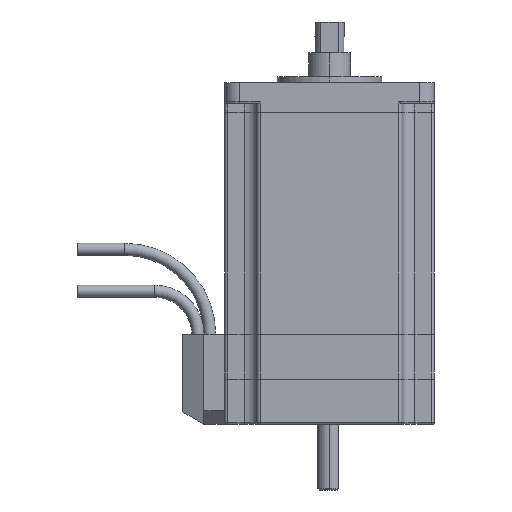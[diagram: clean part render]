
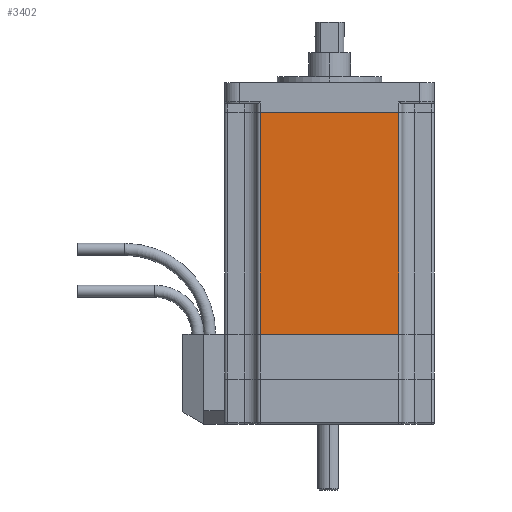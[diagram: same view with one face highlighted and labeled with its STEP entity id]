
A CAD part, left-side view. The second image highlights one B-rep face of the part: STEP entity #3402.
In plain terms, the highlighted planar face has unit normal (-1, 0, 0).
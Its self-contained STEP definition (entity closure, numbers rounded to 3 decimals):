
#276 = VECTOR ( 'NONE', #378, 1000. ) ;
#378 = DIRECTION ( 'NONE',  ( 0., 1., 0. ) ) ;
#503 = AXIS2_PLACEMENT_3D ( 'NONE', #5862, #5057, #5256 ) ;
#506 = VECTOR ( 'NONE', #1842, 1000. ) ;
#557 = ORIENTED_EDGE ( 'NONE', *, *, #1018, .T. ) ;
#628 = ORIENTED_EDGE ( 'NONE', *, *, #1414, .T. ) ;
#731 = EDGE_CURVE ( 'NONE', #6656, #3488, #6765, .T. ) ;
#757 = LINE ( 'NONE', #940, #1896 ) ;
#940 = CARTESIAN_POINT ( 'NONE',  ( -35., -23.1, -7. ) ) ;
#1018 = EDGE_CURVE ( 'NONE', #6656, #1808, #757, .T. ) ;
#1148 = EDGE_LOOP ( 'NONE', ( #1225, #557, #2194, #628 ) ) ;
#1225 = ORIENTED_EDGE ( 'NONE', *, *, #731, .F. ) ;
#1414 = EDGE_CURVE ( 'NONE', #3750, #3488, #4486, .T. ) ;
#1416 = CARTESIAN_POINT ( 'NONE',  ( -35., -23.1, -10. ) ) ;
#1808 = VERTEX_POINT ( 'NONE', #1416 ) ;
#1842 = DIRECTION ( 'NONE',  ( 0., -1., 0. ) ) ;
#1896 = VECTOR ( 'NONE', #5214, 1000. ) ;
#2194 = ORIENTED_EDGE ( 'NONE', *, *, #5269, .F. ) ;
#3402 = ADVANCED_FACE ( 'NONE', ( #7998 ), #7377, .T. ) ;
#3488 = VERTEX_POINT ( 'NONE', #8915 ) ;
#3750 = VERTEX_POINT ( 'NONE', #6487 ) ;
#3780 = CARTESIAN_POINT ( 'NONE',  ( -35., -23.1, -84. ) ) ;
#4439 = CARTESIAN_POINT ( 'NONE',  ( -35., 23.1, -114. ) ) ;
#4486 = LINE ( 'NONE', #4439, #7969 ) ;
#5057 = DIRECTION ( 'NONE',  ( -1., 0., 0. ) ) ;
#5214 = DIRECTION ( 'NONE',  ( 0., 0., 1. ) ) ;
#5256 = DIRECTION ( 'NONE',  ( 0., 0., 1. ) ) ;
#5269 = EDGE_CURVE ( 'NONE', #3750, #1808, #7787, .T. ) ;
#5862 = CARTESIAN_POINT ( 'NONE',  ( -35., -30., -114. ) ) ;
#6487 = CARTESIAN_POINT ( 'NONE',  ( -35., 23.1, -10. ) ) ;
#6656 = VERTEX_POINT ( 'NONE', #3780 ) ;
#6765 = LINE ( 'NONE', #8283, #276 ) ;
#7330 = DIRECTION ( 'NONE',  ( 0., 0., -1. ) ) ;
#7377 = PLANE ( 'NONE',  #503 ) ;
#7588 = CARTESIAN_POINT ( 'NONE',  ( -35., -30., -10. ) ) ;
#7787 = LINE ( 'NONE', #7588, #506 ) ;
#7969 = VECTOR ( 'NONE', #7330, 1000. ) ;
#7998 = FACE_OUTER_BOUND ( 'NONE', #1148, .T. ) ;
#8283 = CARTESIAN_POINT ( 'NONE',  ( -35., -30., -84. ) ) ;
#8915 = CARTESIAN_POINT ( 'NONE',  ( -35., 23.1, -84. ) ) ;
